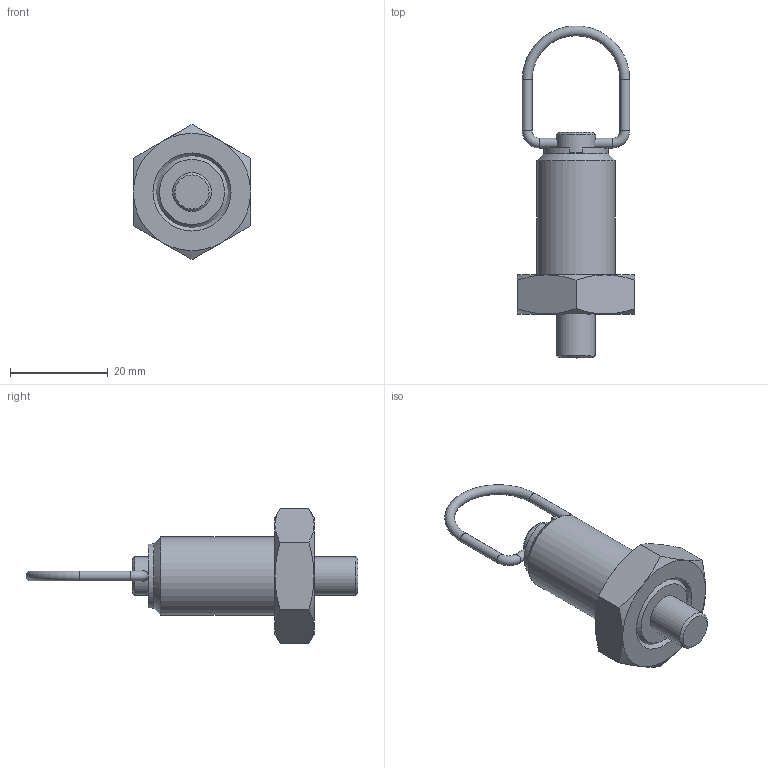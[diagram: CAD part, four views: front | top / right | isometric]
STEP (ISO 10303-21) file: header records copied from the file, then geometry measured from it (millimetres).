
FILE_DESCRIPTION( ( 'STEP AP203' ), '1' );
FILE_NAME( 'C:/Temp/Ganter_Step_05_03_2020/data/3_1/gn_413/gn413_ni/gn413_ni_ak/Stainless Steel Indexing plunger GN 413-8-M16-AK-NI (deactivated-0).stp', '2020-03-12T09:11:14', ( 'License CC BY-ND 4.0' ), ( 'CADENAS' ), ' ', 'PARTsolutions', ' ' );
FILE_SCHEMA( ( 'CONFIG_CONTROL_DESIGN' ) );
Length unit declared in the file: millimetre
Products named in the file (4): Stainless Steel Indexing plunger GN 413-8-M16-AK-NI (deactivated-0); _Edelstahl-Rastbolzen GN 413-8-M16-AK-NI (unbetaetigt)_f; _Edelstahl-Rastbolzen GN 413-8-M16-AK-NI (unbetaetigt)_b; _Edelstahl-Rastbolzen GN 413-8-M16-AK-NI (unbetaetigt)_km
Assembly tree (3 placements, depth 2):
  Stainless Steel Indexing plunger GN 413-8-M16-AK-NI (deactivated-0)
    _Edelstahl-Rastbolzen GN 413-8-M16-AK-NI (unbetaetigt)_f
    _Edelstahl-Rastbolzen GN 413-8-M16-AK-NI (unbetaetigt)_b
    _Edelstahl-Rastbolzen GN 413-8-M16-AK-NI (unbetaetigt)_km
Bounding box: 24 x 67.99 x 27.71 mm (x, y, z)
Volume: 9704.8 mm3; surface area: 6346 mm2
Topology: 3 solids, 3 shells, 61 faces, 129 edges, 78 vertices
Faces by surface type: plane 24, cone 20, cylinder 14, torus 3
Full cylindrical faces by diameter (mm): 2 x4, 8 x4, 8.3 x1, 11 x2, 13.2 x1, 13.835 x1, 16 x1
Entity records: 1767 total; most frequent: CARTESIAN_POINT 455, DIRECTION 254, ORIENTED_EDGE 198, AXIS2_PLACEMENT_3D 116, EDGE_CURVE 99, EDGE_LOOP 96, FACE_OUTER_BOUND 78, VERTEX_POINT 73
